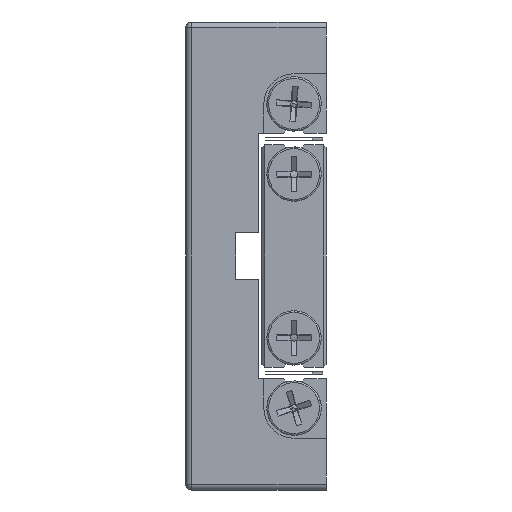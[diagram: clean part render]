
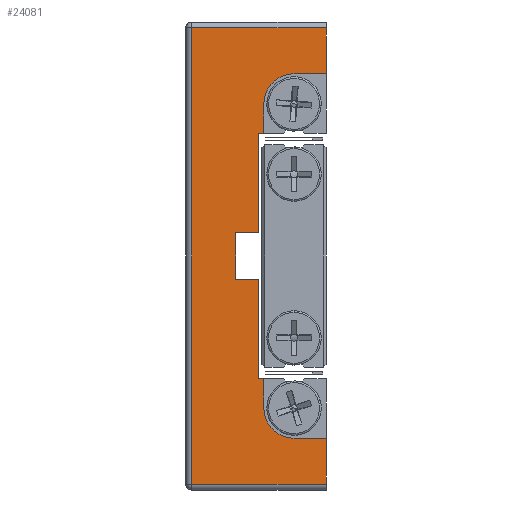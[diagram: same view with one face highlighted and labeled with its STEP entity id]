
A CAD part, left-side view. The second image highlights one B-rep face of the part: STEP entity #24081.
In plain terms, the highlighted planar face has unit normal (-1, 0, 0).
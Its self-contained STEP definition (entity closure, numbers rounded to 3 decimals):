
#29 = CARTESIAN_POINT ( 'NONE',  ( -140.553, 25.612, 67.057 ) ) ;
#108 = CARTESIAN_POINT ( 'NONE',  ( -140.553, 8.112, 2.057 ) ) ;
#110 = VECTOR ( 'NONE', #14593, 1000. ) ;
#160 = DIRECTION ( 'NONE',  ( 0., 1., 0. ) ) ;
#471 = VECTOR ( 'NONE', #16996, 1000. ) ;
#699 = CARTESIAN_POINT ( 'NONE',  ( -140.553, 14.112, 7.057 ) ) ;
#934 = VERTEX_POINT ( 'NONE', #16057 ) ;
#1454 = CARTESIAN_POINT ( 'NONE',  ( -140.553, 2.612, -3.093 ) ) ;
#1705 = ORIENTED_EDGE ( 'NONE', *, *, #19494, .F. ) ;
#1810 = VECTOR ( 'NONE', #10695, 1000. ) ;
#1826 = EDGE_CURVE ( 'NONE', #2545, #22193, #15858, .T. ) ;
#1852 = CARTESIAN_POINT ( 'NONE',  ( -140.553, 26.612, -11.943 ) ) ;
#1878 = ORIENTED_EDGE ( 'NONE', *, *, #2391, .F. ) ;
#2028 = CARTESIAN_POINT ( 'NONE',  ( -140.553, 8.112, 59.207 ) ) ;
#2045 = FACE_OUTER_BOUND ( 'NONE', #15362, .T. ) ;
#2111 = DIRECTION ( 'NONE',  ( 0., 0., 1. ) ) ;
#2143 = EDGE_CURVE ( 'NONE', #20310, #22816, #3903, .T. ) ;
#2269 = LINE ( 'NONE', #24430, #12024 ) ;
#2391 = EDGE_CURVE ( 'NONE', #19632, #18536, #9388, .T. ) ;
#2545 = VERTEX_POINT ( 'NONE', #17865 ) ;
#2834 = CARTESIAN_POINT ( 'NONE',  ( -140.553, 8.112, 54.057 ) ) ;
#2977 = LINE ( 'NONE', #699, #13344 ) ;
#3041 = EDGE_CURVE ( 'NONE', #16309, #8902, #10275, .T. ) ;
#3138 = CARTESIAN_POINT ( 'NONE',  ( -140.553, 18.112, 24.057 ) ) ;
#3307 = CARTESIAN_POINT ( 'NONE',  ( -140.553, 2.612, 67.057 ) ) ;
#3481 = VERTEX_POINT ( 'NONE', #29 ) ;
#3802 = ORIENTED_EDGE ( 'NONE', *, *, #1826, .F. ) ;
#3894 = DIRECTION ( 'NONE',  ( 0., 0., 1. ) ) ;
#3903 = LINE ( 'NONE', #11855, #19054 ) ;
#3921 = EDGE_CURVE ( 'NONE', #22816, #3481, #5110, .T. ) ;
#4191 = VECTOR ( 'NONE', #17996, 1000. ) ;
#4603 = EDGE_CURVE ( 'NONE', #25561, #16730, #5955, .T. ) ;
#4659 = CARTESIAN_POINT ( 'NONE',  ( -140.553, 14.112, 49.057 ) ) ;
#4805 = DIRECTION ( 'NONE',  ( 0., 0., -1. ) ) ;
#4890 = VECTOR ( 'NONE', #17778, 1000. ) ;
#5017 = CARTESIAN_POINT ( 'NONE',  ( -140.553, 2.612, -10.943 ) ) ;
#5068 = EDGE_CURVE ( 'NONE', #934, #6371, #17314, .T. ) ;
#5110 = LINE ( 'NONE', #18408, #25408 ) ;
#5415 = CARTESIAN_POINT ( 'NONE',  ( -140.553, 2.612, 7.057 ) ) ;
#5461 = VERTEX_POINT ( 'NONE', #2028 ) ;
#5702 = VECTOR ( 'NONE', #23261, 1000. ) ;
#5788 = CARTESIAN_POINT ( 'NONE',  ( -140.553, 2.612, -11.943 ) ) ;
#5793 = DIRECTION ( 'NONE',  ( 0., 0., -1. ) ) ;
#5859 = AXIS2_PLACEMENT_3D ( 'NONE', #2834, #16564, #4805 ) ;
#5954 = CARTESIAN_POINT ( 'NONE',  ( -140.553, 13.262, 2.057 ) ) ;
#5955 = LINE ( 'NONE', #19039, #110 ) ;
#6371 = VERTEX_POINT ( 'NONE', #10261 ) ;
#6764 = CARTESIAN_POINT ( 'NONE',  ( -140.553, 14.112, 32.057 ) ) ;
#6839 = EDGE_CURVE ( 'NONE', #16730, #25130, #15338, .T. ) ;
#7495 = LINE ( 'NONE', #6764, #17331 ) ;
#7613 = ORIENTED_EDGE ( 'NONE', *, *, #9663, .F. ) ;
#8392 = ORIENTED_EDGE ( 'NONE', *, *, #25394, .F. ) ;
#8549 = ORIENTED_EDGE ( 'NONE', *, *, #18648, .F. ) ;
#8703 = DIRECTION ( 'NONE',  ( 0., -1., 0. ) ) ;
#8708 = DIRECTION ( 'NONE',  ( 0., 0., -1. ) ) ;
#8800 = ORIENTED_EDGE ( 'NONE', *, *, #19476, .F. ) ;
#8902 = VERTEX_POINT ( 'NONE', #5017 ) ;
#9078 = ORIENTED_EDGE ( 'NONE', *, *, #17019, .T. ) ;
#9388 = LINE ( 'NONE', #17915, #4191 ) ;
#9663 = EDGE_CURVE ( 'NONE', #22193, #19632, #2269, .T. ) ;
#9675 = EDGE_CURVE ( 'NONE', #25130, #2545, #7495, .T. ) ;
#9795 = ORIENTED_EDGE ( 'NONE', *, *, #6839, .F. ) ;
#9911 = CARTESIAN_POINT ( 'NONE',  ( -140.553, 2.612, 59.207 ) ) ;
#10022 = CARTESIAN_POINT ( 'NONE',  ( -140.553, 14.112, 24.057 ) ) ;
#10093 = CARTESIAN_POINT ( 'NONE',  ( -140.553, 18.112, 32.057 ) ) ;
#10136 = VECTOR ( 'NONE', #20279, 1000. ) ;
#10261 = CARTESIAN_POINT ( 'NONE',  ( -140.553, 13.262, 7.057 ) ) ;
#10275 = LINE ( 'NONE', #17086, #471 ) ;
#10612 = CARTESIAN_POINT ( 'NONE',  ( -140.553, 25.612, -11.943 ) ) ;
#10661 = VECTOR ( 'NONE', #160, 1000. ) ;
#10671 = VERTEX_POINT ( 'NONE', #19254 ) ;
#10695 = DIRECTION ( 'NONE',  ( 0., 0., -1. ) ) ;
#11013 = ORIENTED_EDGE ( 'NONE', *, *, #24715, .F. ) ;
#11143 = ORIENTED_EDGE ( 'NONE', *, *, #3921, .T. ) ;
#11390 = CARTESIAN_POINT ( 'NONE',  ( -140.553, 8.112, -3.093 ) ) ;
#11855 = CARTESIAN_POINT ( 'NONE',  ( -140.553, 2.612, -11.943 ) ) ;
#11917 = ORIENTED_EDGE ( 'NONE', *, *, #3041, .T. ) ;
#12024 = VECTOR ( 'NONE', #14500, 1000. ) ;
#12181 = LINE ( 'NONE', #10612, #1810 ) ;
#12323 = DIRECTION ( 'NONE',  ( 0., 0., 1. ) ) ;
#12522 = LINE ( 'NONE', #5788, #17862 ) ;
#13344 = VECTOR ( 'NONE', #18531, 1000. ) ;
#13533 = ORIENTED_EDGE ( 'NONE', *, *, #19296, .F. ) ;
#13813 = DIRECTION ( 'NONE',  ( -1., 0., 0. ) ) ;
#13977 = CARTESIAN_POINT ( 'NONE',  ( -140.553, 14.112, 49.057 ) ) ;
#14012 = CARTESIAN_POINT ( 'NONE',  ( -140.553, 13.262, 54.057 ) ) ;
#14500 = DIRECTION ( 'NONE',  ( 0., 0., -1. ) ) ;
#14593 = DIRECTION ( 'NONE',  ( 0., 0., -1. ) ) ;
#14657 = CIRCLE ( 'NONE', #21089, 5.15 ) ;
#15279 = LINE ( 'NONE', #5954, #4890 ) ;
#15338 = LINE ( 'NONE', #13977, #10136 ) ;
#15362 = EDGE_LOOP ( 'NONE', ( #9078, #11917, #17957, #8392, #1705, #8800, #23069, #8549, #1878, #7613, #3802, #19022, #9795, #22718, #11013, #13533, #16743, #11143 ) ) ;
#15374 = CARTESIAN_POINT ( 'NONE',  ( -140.553, 18.112, 32.057 ) ) ;
#15858 = LINE ( 'NONE', #15374, #10661 ) ;
#16057 = CARTESIAN_POINT ( 'NONE',  ( -140.553, 14.112, 7.057 ) ) ;
#16214 = EDGE_CURVE ( 'NONE', #8902, #18860, #12522, .T. ) ;
#16309 = VERTEX_POINT ( 'NONE', #17932 ) ;
#16435 = CIRCLE ( 'NONE', #5859, 5.15 ) ;
#16564 = DIRECTION ( 'NONE',  ( -1., 0., 0. ) ) ;
#16677 = VECTOR ( 'NONE', #8703, 1000. ) ;
#16730 = VERTEX_POINT ( 'NONE', #17541 ) ;
#16743 = ORIENTED_EDGE ( 'NONE', *, *, #2143, .T. ) ;
#16996 = DIRECTION ( 'NONE',  ( 0., -1., 0. ) ) ;
#17019 = EDGE_CURVE ( 'NONE', #3481, #16309, #12181, .T. ) ;
#17086 = CARTESIAN_POINT ( 'NONE',  ( -140.553, 26.612, -10.943 ) ) ;
#17314 = LINE ( 'NONE', #5415, #16677 ) ;
#17331 = VECTOR ( 'NONE', #8708, 1000. ) ;
#17387 = LINE ( 'NONE', #21325, #5702 ) ;
#17541 = CARTESIAN_POINT ( 'NONE',  ( -140.553, 13.262, 49.057 ) ) ;
#17577 = DIRECTION ( 'NONE',  ( 1., 0., 0. ) ) ;
#17694 = VERTEX_POINT ( 'NONE', #22262 ) ;
#17778 = DIRECTION ( 'NONE',  ( 0., 0., -1. ) ) ;
#17862 = VECTOR ( 'NONE', #3894, 1000. ) ;
#17865 = CARTESIAN_POINT ( 'NONE',  ( -140.553, 14.112, 32.057 ) ) ;
#17915 = CARTESIAN_POINT ( 'NONE',  ( -140.553, 14.112, 24.057 ) ) ;
#17932 = CARTESIAN_POINT ( 'NONE',  ( -140.553, 25.612, -10.943 ) ) ;
#17957 = ORIENTED_EDGE ( 'NONE', *, *, #16214, .T. ) ;
#17996 = DIRECTION ( 'NONE',  ( 0., -1., 0. ) ) ;
#18005 = VECTOR ( 'NONE', #21519, 1000. ) ;
#18408 = CARTESIAN_POINT ( 'NONE',  ( -140.553, 26.612, 67.057 ) ) ;
#18531 = DIRECTION ( 'NONE',  ( 0., 0., -1. ) ) ;
#18536 = VERTEX_POINT ( 'NONE', #10022 ) ;
#18648 = EDGE_CURVE ( 'NONE', #18536, #934, #2977, .T. ) ;
#18860 = VERTEX_POINT ( 'NONE', #1454 ) ;
#19022 = ORIENTED_EDGE ( 'NONE', *, *, #9675, .F. ) ;
#19039 = CARTESIAN_POINT ( 'NONE',  ( -140.553, 13.262, 54.057 ) ) ;
#19054 = VECTOR ( 'NONE', #12323, 1000. ) ;
#19254 = CARTESIAN_POINT ( 'NONE',  ( -140.553, 8.112, -3.093 ) ) ;
#19296 = EDGE_CURVE ( 'NONE', #20310, #5461, #17387, .T. ) ;
#19380 = DIRECTION ( 'NONE',  ( 0., 1., 0. ) ) ;
#19476 = EDGE_CURVE ( 'NONE', #6371, #17694, #15279, .T. ) ;
#19494 = EDGE_CURVE ( 'NONE', #17694, #10671, #14657, .T. ) ;
#19632 = VERTEX_POINT ( 'NONE', #3138 ) ;
#20279 = DIRECTION ( 'NONE',  ( 0., 1., 0. ) ) ;
#20310 = VERTEX_POINT ( 'NONE', #9911 ) ;
#21089 = AXIS2_PLACEMENT_3D ( 'NONE', #108, #13813, #2111 ) ;
#21325 = CARTESIAN_POINT ( 'NONE',  ( -140.553, 8.112, 59.207 ) ) ;
#21450 = AXIS2_PLACEMENT_3D ( 'NONE', #1852, #17577, #5793 ) ;
#21519 = DIRECTION ( 'NONE',  ( 0., -1., 0. ) ) ;
#22193 = VERTEX_POINT ( 'NONE', #10093 ) ;
#22262 = CARTESIAN_POINT ( 'NONE',  ( -140.553, 13.262, 2.057 ) ) ;
#22718 = ORIENTED_EDGE ( 'NONE', *, *, #4603, .F. ) ;
#22816 = VERTEX_POINT ( 'NONE', #3307 ) ;
#23069 = ORIENTED_EDGE ( 'NONE', *, *, #5068, .F. ) ;
#23261 = DIRECTION ( 'NONE',  ( 0., 1., 0. ) ) ;
#23287 = LINE ( 'NONE', #11390, #18005 ) ;
#24081 = ADVANCED_FACE ( 'NONE', ( #2045 ), #25410, .F. ) ;
#24430 = CARTESIAN_POINT ( 'NONE',  ( -140.553, 18.112, 24.057 ) ) ;
#24715 = EDGE_CURVE ( 'NONE', #5461, #25561, #16435, .T. ) ;
#25130 = VERTEX_POINT ( 'NONE', #4659 ) ;
#25394 = EDGE_CURVE ( 'NONE', #10671, #18860, #23287, .T. ) ;
#25408 = VECTOR ( 'NONE', #19380, 1000. ) ;
#25410 = PLANE ( 'NONE',  #21450 ) ;
#25561 = VERTEX_POINT ( 'NONE', #14012 ) ;
